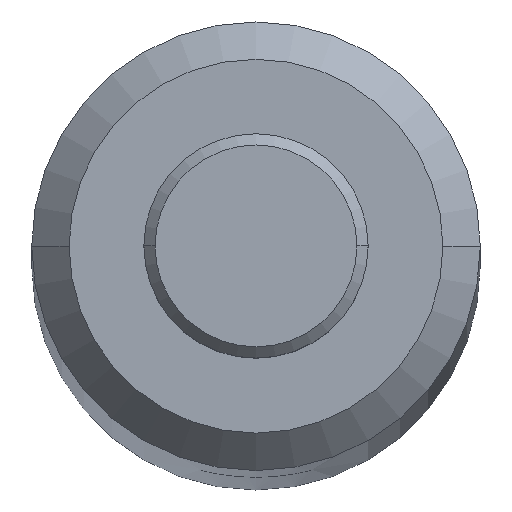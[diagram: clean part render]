
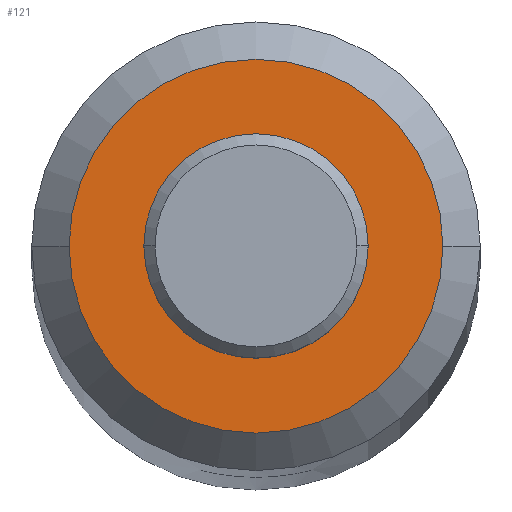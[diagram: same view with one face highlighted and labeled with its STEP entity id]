
A CAD part, top view. The second image highlights one B-rep face of the part: STEP entity #121.
In plain terms, the highlighted planar face has unit normal (0, 0, 1).
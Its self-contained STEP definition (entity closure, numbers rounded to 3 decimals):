
#19 = CIRCLE ( 'NONE', #445, 5. ) ;
#38 = CARTESIAN_POINT ( 'NONE',  ( 0., 0., 300. ) ) ;
#101 = CARTESIAN_POINT ( 'NONE',  ( 0., 0., 300. ) ) ;
#103 = EDGE_CURVE ( 'NONE', #189, #105, #19, .T. ) ;
#105 = VERTEX_POINT ( 'NONE', #157 ) ;
#121 = ADVANCED_FACE ( 'NONE', ( #538, #411 ), #387, .T. ) ;
#139 = DIRECTION ( 'NONE',  ( 0., 0., 1. ) ) ;
#157 = CARTESIAN_POINT ( 'NONE',  ( 5., 0., 300. ) ) ;
#163 = ORIENTED_EDGE ( 'NONE', *, *, #103, .T. ) ;
#169 = EDGE_CURVE ( 'NONE', #703, #625, #309, .T. ) ;
#189 = VERTEX_POINT ( 'NONE', #606 ) ;
#215 = CIRCLE ( 'NONE', #705, 2.25 ) ;
#221 = DIRECTION ( 'NONE',  ( 1., 0., 0. ) ) ;
#234 = EDGE_CURVE ( 'NONE', #625, #703, #215, .T. ) ;
#309 = CIRCLE ( 'NONE', #593, 2.25 ) ;
#333 = EDGE_LOOP ( 'NONE', ( #693, #434 ) ) ;
#338 = DIRECTION ( 'NONE',  ( 0., 0., 1. ) ) ;
#376 = DIRECTION ( 'NONE',  ( 1., 0., 0. ) ) ;
#387 = PLANE ( 'NONE',  #523 ) ;
#411 = FACE_BOUND ( 'NONE', #333, .T. ) ;
#425 = DIRECTION ( 'NONE',  ( 1., 0., 0. ) ) ;
#427 = CARTESIAN_POINT ( 'NONE',  ( 0., 0., 300. ) ) ;
#434 = ORIENTED_EDGE ( 'NONE', *, *, #234, .F. ) ;
#445 = AXIS2_PLACEMENT_3D ( 'NONE', #101, #507, #621 ) ;
#448 = DIRECTION ( 'NONE',  ( 0., 0., 1. ) ) ;
#464 = DIRECTION ( 'NONE',  ( 0., 0., 1. ) ) ;
#475 = AXIS2_PLACEMENT_3D ( 'NONE', #628, #464, #689 ) ;
#507 = DIRECTION ( 'NONE',  ( 0., 0., 1. ) ) ;
#509 = CARTESIAN_POINT ( 'NONE',  ( -2.25, 0., 300. ) ) ;
#523 = AXIS2_PLACEMENT_3D ( 'NONE', #38, #338, #221 ) ;
#538 = FACE_OUTER_BOUND ( 'NONE', #560, .T. ) ;
#552 = ORIENTED_EDGE ( 'NONE', *, *, #688, .T. ) ;
#560 = EDGE_LOOP ( 'NONE', ( #163, #552 ) ) ;
#573 = CARTESIAN_POINT ( 'NONE',  ( 2.25, 0., 300. ) ) ;
#593 = AXIS2_PLACEMENT_3D ( 'NONE', #427, #139, #425 ) ;
#606 = CARTESIAN_POINT ( 'NONE',  ( -5., 0., 300. ) ) ;
#609 = CIRCLE ( 'NONE', #475, 5. ) ;
#613 = CARTESIAN_POINT ( 'NONE',  ( 0., 0., 300. ) ) ;
#621 = DIRECTION ( 'NONE',  ( 1., 0., 0. ) ) ;
#625 = VERTEX_POINT ( 'NONE', #573 ) ;
#628 = CARTESIAN_POINT ( 'NONE',  ( 0., 0., 300. ) ) ;
#688 = EDGE_CURVE ( 'NONE', #105, #189, #609, .T. ) ;
#689 = DIRECTION ( 'NONE',  ( 1., 0., 0. ) ) ;
#693 = ORIENTED_EDGE ( 'NONE', *, *, #169, .F. ) ;
#703 = VERTEX_POINT ( 'NONE', #509 ) ;
#705 = AXIS2_PLACEMENT_3D ( 'NONE', #613, #448, #376 ) ;
